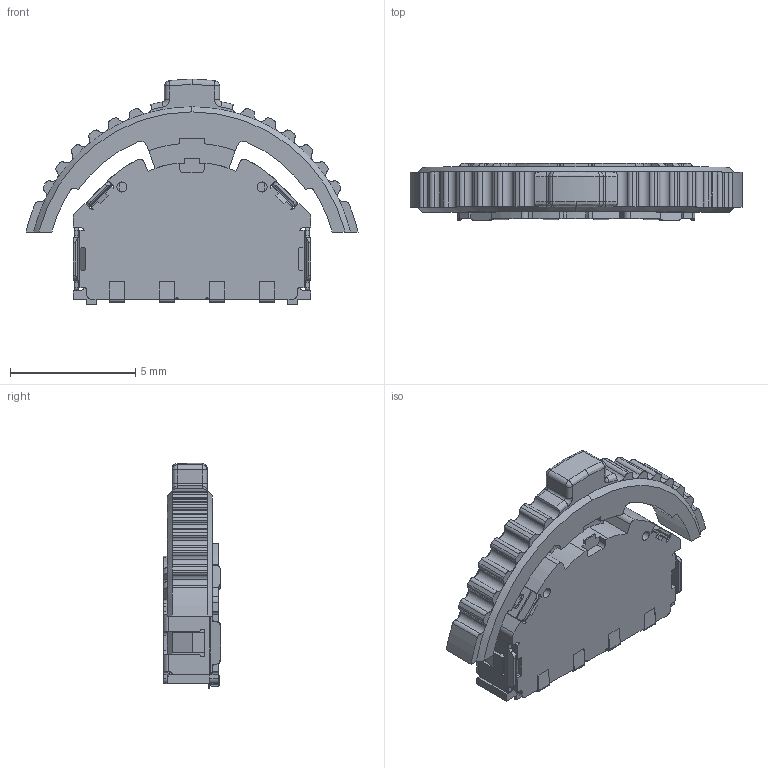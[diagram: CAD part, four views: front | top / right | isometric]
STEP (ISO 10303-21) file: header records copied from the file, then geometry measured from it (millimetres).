
FILE_DESCRIPTION (( 'STEP AP214' ), '1' );
FILE_NAME ('SLLB510200.STEP', '2011-03-28T11:25:07', ( '' ), ( '' ), 'SwSTEP 2.0', 'SolidWorks 2007', '' );
FILE_SCHEMA (( 'AUTOMOTIVE_DESIGN' ));
Length unit declared in the file: millimetre
Products named in the file (1): SLLB510200
Bounding box: 13.27 x 2.29 x 9 mm (x, y, z)
Volume: 137.3 mm3; surface area: 304.4 mm2
Topology: 1 solids, 1 shells, 595 faces, 1724 edges, 1113 vertices
Faces by surface type: plane 307, cylinder 255, bspline 19, cone 14
Entity records: 23815 total; most frequent: CARTESIAN_POINT 4071, ORIENTED_EDGE 3448, DIRECTION 3379, EDGE_CURVE 1724, AXIS2_PLACEMENT_3D 1163, VERTEX_POINT 1113, LINE 1053, VECTOR 1053
